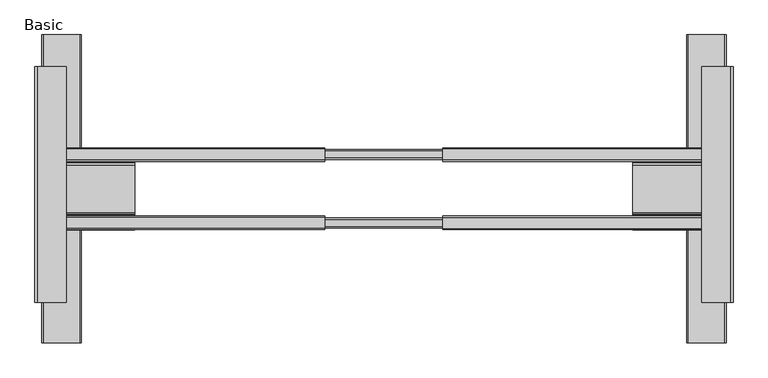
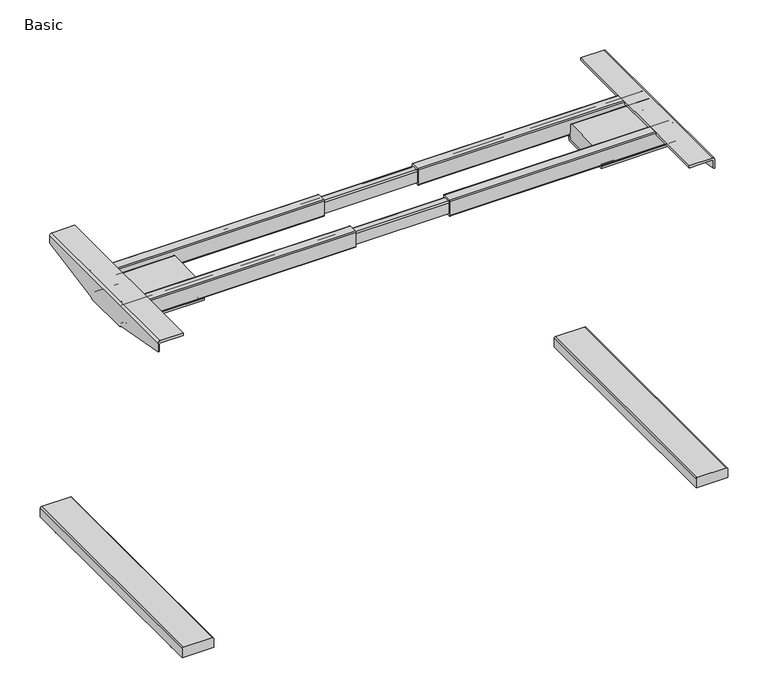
"""IFC4 building model written with IfcOpenShell, lengths in millimetres: furniture geometry, Steelcase Turnstone - Bivi - T Base : Basic."""

from ifc_helpers import new_model, si_unit, point, frame, frame_2d, origin, place, context, project, spatial, polyline, circle_curve, ellipse_curve, trimmed, segment, composite_curve, outline, extrude, source, transform, mapped, element, save
from ifc_brep_helpers import plane_surface, cylinder_surface, revolved_surface, advanced_brep


def basic_1c79728b(model_context):
    return source(origin(), model_context, "Body", "SolidModel", [
        advanced_brep(
        [(439.9197971, 171.9471628, 0.0), (439.9197971, 111.031484, 0.0), (439.9197971, 141.4893234, 0.0), (439.9197971, 173.9813657, 2.034203), (439.9197971, 108.997281, 2.034203), (439.9197971, 173.9813657, 5.0424709), (439.9197971, 108.997281, 5.0424709), (439.9197971, 171.9620755, 7.0617612), (439.9197971, 111.0165712, 7.0617612), (439.9197971, 149.0390808, 9.288914), (439.9197971, 133.9395659, 9.288914), (439.9197971, 141.4893234, 9.288914)],
        [
            (0, 1, circle_curve(frame((439.9197971, 141.4893234, 0.0), z_axis=(0.0, 0.0, -1.0), x_axis=(0.0, -1.0, 0.0)), 30.4578394)),
            (1, 2),
            (2, 0),
            (1, 0, circle_curve(frame((439.9197971, 141.4893234, 0.0), z_axis=(0.0, 0.0, -1.0), x_axis=(0.0, -1.0, 0.0)), 30.4578394)),
            (3, 4, circle_curve(frame((439.9197971, 141.4893234, 2.034203), z_axis=(0.0, 0.0, -1.0), x_axis=(0.0, -1.0, 0.0)), 32.4920424)),
            (4, 1, circle_curve(frame((439.9197971, 111.031484, 2.034203), z_axis=(1.0, 0.0, 0.0), x_axis=(0.0, 1.0, 0.0)), 2.034203)),
            (0, 3, circle_curve(frame((439.9197971, 171.9471628, 2.034203), z_axis=(1.0, 0.0, 0.0), x_axis=(0.0, -1.0, 0.0)), 2.034203)),
            (4, 3, circle_curve(frame((439.9197971, 141.4893234, 2.034203), z_axis=(0.0, 0.0, -1.0), x_axis=(0.0, -1.0, 0.0)), 32.4920424)),
            (5, 6, circle_curve(frame((439.9197971, 141.4893234, 5.0424709), z_axis=(0.0, 0.0, -1.0), x_axis=(0.0, -1.0, 0.0)), 32.4920424)),
            (6, 4),
            (3, 5),
            (6, 5, circle_curve(frame((439.9197971, 141.4893234, 5.0424709), z_axis=(0.0, 0.0, -1.0), x_axis=(0.0, -1.0, 0.0)), 32.4920424)),
            (7, 8, circle_curve(frame((439.9197971, 141.4893234, 7.0617612), z_axis=(0.0, 0.0, -1.0), x_axis=(0.0, -1.0, 0.0)), 30.4727521)),
            (8, 6, circle_curve(frame((439.9197971, 111.0165712, 5.0424709), z_axis=(1.0, 0.0, 0.0), x_axis=(0.0, 1.0, 0.0)), 2.0192902)),
            (5, 7, circle_curve(frame((439.9197971, 171.9620755, 5.0424709), z_axis=(1.0, 0.0, 0.0), x_axis=(0.0, -1.0, 0.0)), 2.0192902)),
            (8, 7, circle_curve(frame((439.9197971, 141.4893234, 7.0617612), z_axis=(0.0, 0.0, -1.0), x_axis=(0.0, -1.0, 0.0)), 30.4727521)),
            (9, 10, circle_curve(frame((439.9197971, 141.4893234, 9.288914), z_axis=(0.0, 0.0, -1.0), x_axis=(0.0, -1.0, 0.0)), 7.5497574)),
            (10, 8),
            (7, 9),
            (10, 9, circle_curve(frame((439.9197971, 141.4893234, 9.288914), z_axis=(0.0, 0.0, -1.0), x_axis=(0.0, -1.0, 0.0)), 7.5497574)),
            (11, 10),
            (9, 11),
        ],
        [
            plane_surface(frame((439.9197971, 141.4893234, 0.0), z_axis=(0.0, 0.0, -1.0), x_axis=(0.0, -1.0, 0.0))),
            revolved_surface(trimmed(ellipse_curve(frame((439.9197971, 111.031484, 2.034203), z_axis=(-1.0, 0.0, 0.0), x_axis=(0.0, 1.0, 0.0)), 2.034203, 2.034203), [point((439.9197971, 111.031484, 0.0))], [point((439.9197971, 108.997281, 2.034203))], True, "CARTESIAN"), (439.9197971, 141.4893234, 13.4607192), (0.0, 0.0, 1.0)),
            cylinder_surface(frame((439.9197971, 141.4893234, 13.4607192), z_axis=(0.0, 0.0, 1.0), x_axis=(0.0, -1.0, 0.0)), 32.4920424),
            revolved_surface(trimmed(ellipse_curve(frame((439.9197971, 111.0165712, 5.0424709), z_axis=(-1.0, 0.0, 0.0), x_axis=(0.0, 1.0, 0.0)), 2.0192902, 2.0192902), [point((439.9197971, 108.997281, 5.0424709))], [point((439.9197971, 111.0165712, 7.0617612))], True, "CARTESIAN"), (439.9197971, 141.4893234, 13.4607192), (0.0, 0.0, 1.0)),
            revolved_surface(polyline([(439.9197971, 111.0165712, 7.0617612), (439.9197971, 133.9395659, 9.288914)]), (439.9197971, 141.4893234, 13.4607192), (0.0, 0.0, 1.0)),
            plane_surface(frame((439.9197971, 141.4893234, 9.288914), z_axis=(0.0, 0.0, 1.0), x_axis=(0.0, -1.0, 0.0))),
        ],
        [
            (0, [[1, 2, 3]]),
            (0, [[4, -3, -2]]),
            (1, [[5, 6, -1, 7]]),
            (1, [[8, -7, -4, -6]]),
            (2, [[9, 10, -5, 11]]),
            (2, [[12, -11, -8, -10]]),
            (3, [[13, 14, -9, 15]]),
            (3, [[16, -15, -12, -14]]),
            (4, [[17, 18, -13, 19]]),
            (4, [[20, -19, -16, -18]]),
            (5, [[21, -17, 22]]),
            (5, [[-22, -20, -21]]),
        ],
    ),
        advanced_brep(
        [(-784.3602029, -367.0453334, 0.0), (-784.3602029, -306.1296546, 0.0), (-784.3602029, -336.587494, 0.0), (-784.3602029, -369.0795363, 2.034203), (-784.3602029, -304.0954516, 2.034203), (-784.3602029, -369.0795363, 5.0424709), (-784.3602029, -304.0954516, 5.0424709), (-784.3602029, -367.0602461, 7.0617612), (-784.3602029, -306.1147418, 7.0617612), (-784.3602029, -344.1372514, 9.288914), (-784.3602029, -329.0377365, 9.288914), (-784.3602029, -336.587494, 9.288914)],
        [
            (0, 1, circle_curve(frame((-784.3602029, -336.587494, 0.0), z_axis=(0.0, 0.0, -1.0), x_axis=(0.0, 1.0, 0.0)), 30.4578394)),
            (1, 2),
            (2, 0),
            (1, 0, circle_curve(frame((-784.3602029, -336.587494, 0.0), z_axis=(0.0, 0.0, -1.0), x_axis=(0.0, 1.0, 0.0)), 30.4578394)),
            (3, 4, circle_curve(frame((-784.3602029, -336.587494, 2.034203), z_axis=(0.0, 0.0, -1.0), x_axis=(0.0, 1.0, 0.0)), 32.4920424)),
            (4, 1, circle_curve(frame((-784.3602029, -306.1296546, 2.034203), z_axis=(-1.0, 0.0, 0.0), x_axis=(0.0, 1.0, 0.0)), 2.034203)),
            (0, 3, circle_curve(frame((-784.3602029, -367.0453334, 2.034203), z_axis=(-1.0, 0.0, 0.0), x_axis=(0.0, -1.0, 0.0)), 2.034203)),
            (4, 3, circle_curve(frame((-784.3602029, -336.587494, 2.034203), z_axis=(0.0, 0.0, -1.0), x_axis=(0.0, 1.0, 0.0)), 32.4920424)),
            (5, 6, circle_curve(frame((-784.3602029, -336.587494, 5.0424709), z_axis=(0.0, 0.0, -1.0), x_axis=(0.0, 1.0, 0.0)), 32.4920424)),
            (6, 4),
            (3, 5),
            (6, 5, circle_curve(frame((-784.3602029, -336.587494, 5.0424709), z_axis=(0.0, 0.0, -1.0), x_axis=(0.0, 1.0, 0.0)), 32.4920424)),
            (7, 8, circle_curve(frame((-784.3602029, -336.587494, 7.0617612), z_axis=(0.0, 0.0, -1.0), x_axis=(0.0, 1.0, 0.0)), 30.4727521)),
            (8, 6, circle_curve(frame((-784.3602029, -306.1147418, 5.0424709), z_axis=(-1.0, 0.0, 0.0), x_axis=(0.0, 1.0, 0.0)), 2.0192902)),
            (5, 7, circle_curve(frame((-784.3602029, -367.0602461, 5.0424709), z_axis=(-1.0, 0.0, 0.0), x_axis=(0.0, -1.0, 0.0)), 2.0192902)),
            (8, 7, circle_curve(frame((-784.3602029, -336.587494, 7.0617612), z_axis=(0.0, 0.0, -1.0), x_axis=(0.0, 1.0, 0.0)), 30.4727521)),
            (9, 10, circle_curve(frame((-784.3602029, -336.587494, 9.288914), z_axis=(0.0, 0.0, -1.0), x_axis=(0.0, 1.0, 0.0)), 7.5497574)),
            (10, 8),
            (7, 9),
            (10, 9, circle_curve(frame((-784.3602029, -336.587494, 9.288914), z_axis=(0.0, 0.0, -1.0), x_axis=(0.0, 1.0, 0.0)), 7.5497574)),
            (11, 10),
            (9, 11),
        ],
        [
            plane_surface(frame((-784.3602029, -336.587494, 0.0), z_axis=(0.0, 0.0, -1.0), x_axis=(0.0, 1.0, 0.0))),
            revolved_surface(trimmed(ellipse_curve(frame((-784.3602029, -306.1296546, 2.034203), z_axis=(1.0, 0.0, 0.0), x_axis=(0.0, 1.0, 0.0)), 2.034203, 2.034203), [point((-784.3602029, -306.1296546, 0.0))], [point((-784.3602029, -304.0954516, 2.034203))], True, "CARTESIAN"), (-784.3602029, -336.587494, 13.4607192), (0.0, 0.0, 1.0)),
            cylinder_surface(frame((-784.3602029, -336.587494, 13.4607192), z_axis=(0.0, 0.0, 1.0), x_axis=(0.0, 1.0, 0.0)), 32.4920424),
            revolved_surface(trimmed(ellipse_curve(frame((-784.3602029, -306.1147418, 5.0424709), z_axis=(1.0, 0.0, 0.0), x_axis=(0.0, 1.0, 0.0)), 2.0192902, 2.0192902), [point((-784.3602029, -304.0954516, 5.0424709))], [point((-784.3602029, -306.1147418, 7.0617612))], True, "CARTESIAN"), (-784.3602029, -336.587494, 13.4607192), (0.0, 0.0, 1.0)),
            revolved_surface(polyline([(-784.3602029, -306.1147418, 7.0617612), (-784.3602029, -329.0377365, 9.288914)]), (-784.3602029, -336.587494, 13.4607192), (0.0, 0.0, 1.0)),
            plane_surface(frame((-784.3602029, -336.587494, 9.288914), z_axis=(0.0, 0.0, 1.0), x_axis=(0.0, 1.0, 0.0))),
        ],
        [
            (0, [[1, 2, 3]]),
            (0, [[4, -3, -2]]),
            (1, [[5, 6, -1, 7]]),
            (1, [[8, -7, -4, -6]]),
            (2, [[9, 10, -5, 11]]),
            (2, [[12, -11, -8, -10]]),
            (3, [[13, 14, -9, 15]]),
            (3, [[16, -15, -12, -14]]),
            (4, [[17, 18, -13, 19]]),
            (4, [[20, -19, -16, -18]]),
            (5, [[21, -17, 22]]),
            (5, [[-22, -20, -21]]),
        ],
    ),
        advanced_brep(
        [(487.1774973, -158.2325705, 706.7459466), (489.6911807, -158.2325705, 706.7459466), (489.6911807, -313.1690409, 735.4690634), (487.1774973, -313.1690409, 735.4690634), (487.1774973, -154.5901123, 703.1034885), (489.6911807, -154.5901123, 703.1034885), (487.1774973, -37.2242924, 706.7459466), (489.6911807, -37.2242924, 706.7459466), (489.6911807, -40.8667505, 703.1034885), (487.1774973, -40.8667505, 703.1034885), (487.1774973, 133.8680014, 738.4641336), (489.6911807, 133.8680014, 738.4641336), (489.6911807, -313.1690409, 757.1424174), (484.4335981, -313.1690409, 762.4), (430.0244146, -313.1690409, 762.4), (430.0244146, -313.1690409, 756.3136941), (484.4335981, -313.1690409, 756.3136941), (487.1774973, -313.1690409, 753.5697948), (487.1774973, 133.8680014, 753.5697948), (484.4335981, 133.8680014, 756.3136941), (430.0244146, 133.8680014, 756.3136941), (430.0244146, 133.8680014, 762.4), (484.4335981, 133.8680014, 762.4), (489.6911807, 133.8680014, 757.1424174)],
        [
            (0, 1),
            (1, 2),
            (2, 3),
            (3, 0),
            (0, 4),
            (4, 5),
            (5, 1),
            (6, 7),
            (7, 8),
            (8, 9),
            (9, 6),
            (6, 10),
            (10, 11),
            (11, 7),
            (12, 13, circle_curve(frame((484.4335981, -313.1690409, 757.1424174), z_axis=(0.0, -1.0, 0.0), x_axis=(-1.0, 0.0, 0.0)), 5.2575826)),
            (13, 14),
            (14, 15),
            (15, 16),
            (16, 17, circle_curve(frame((484.4335981, -313.1690409, 753.5697948), z_axis=(0.0, 1.0, 0.0), x_axis=(-1.0, 0.0, 0.0)), 2.7438992)),
            (17, 3),
            (2, 12),
            (18, 19, circle_curve(frame((484.4335981, 133.8680014, 753.5697948), z_axis=(0.0, -1.0, 0.0), x_axis=(-1.0, 0.0, 0.0)), 2.7438992)),
            (19, 20),
            (20, 21),
            (21, 22),
            (22, 23, circle_curve(frame((484.4335981, 133.8680014, 757.1424174), z_axis=(0.0, 1.0, 0.0), x_axis=(-1.0, 0.0, 0.0)), 5.2575826)),
            (23, 11),
            (10, 18),
            (17, 18),
            (9, 4),
            (16, 19),
            (15, 20),
            (14, 21),
            (13, 22),
            (12, 23),
            (5, 8),
        ],
        [
            plane_surface(frame((907.5476074, -158.2325705, 706.7459466), z_axis=(0.0, -0.18228055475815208, -0.983246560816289), x_axis=(-1.0, 0.0, 0.0))),
            plane_surface(frame((907.5476074, -152.8866238, 701.4), z_axis=(0.0, -0.7071067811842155, -0.7071067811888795), x_axis=(-1.0, 0.0, 0.0))),
            plane_surface(frame((907.5476074, -37.2242924, 706.7459466), z_axis=(0.0, 0.707106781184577, -0.7071067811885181), x_axis=(-1.0, 0.0, 0.0))),
            plane_surface(frame((907.5476074, 190.3320215, 748.9317958), z_axis=(0.0, 0.18228055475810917, -0.983246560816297), x_axis=(-1.0, 0.0, 0.0))),
            plane_surface(frame((489.6911807, -313.1690409, 703.1034885), z_axis=(0.0, -1.0, 0.0), x_axis=(1.0, 0.0, 0.0))),
            plane_surface(frame((489.6911807, 133.8680014, 703.1034885), z_axis=(0.0, 1.0, 0.0), x_axis=(-1.0, 0.0, 0.0))),
            plane_surface(frame((487.1774973, -313.1690409, 753.5697948), z_axis=(-1.0, 0.0, 0.0), x_axis=(0.0, 1.0, 0.0))),
            revolved_surface(polyline([(481.6896989, 133.8680014, 753.5697948), (481.6896989, -313.1690409, 753.5697948)]), (484.4335981, 133.8680014, 753.5697948), (0.0, 1.0, 0.0)),
            plane_surface(frame((430.0244146, -313.1690409, 756.3136941), z_axis=(1.363306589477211e-12, 0.0, -1.0), x_axis=(0.0, 1.0, 0.0))),
            plane_surface(frame((430.0244146, -313.1690409, 762.4), z_axis=(-1.0, 0.0, 0.0), x_axis=(0.0, 1.0, 0.0))),
            plane_surface(frame((484.4335981, -313.1690409, 762.4), z_axis=(0.0, 0.0, 1.0), x_axis=(0.0, 1.0, 0.0))),
            cylinder_surface(frame((484.4335981, 133.8680014, 757.1424174), z_axis=(0.0, -1.0, 0.0), x_axis=(-1.0, 0.0, 0.0)), 5.2575826),
            plane_surface(frame((489.6911807, -313.1690409, 703.1034885), z_axis=(1.0, 0.0, 0.0), x_axis=(0.0, 1.0, 0.0))),
            plane_surface(frame((487.1774973, -313.1690409, 703.1034885), z_axis=(0.0, 0.0, -1.0), x_axis=(0.0, 1.0, 0.0))),
        ],
        [
            (0, [[1, 2, 3, 4]]),
            (1, [[-1, 5, 6, 7]]),
            (2, [[8, 9, 10, 11]]),
            (3, [[-8, 12, 13, 14]]),
            (4, [[15, 16, 17, 18, 19, 20, -3, 21]]),
            (5, [[22, 23, 24, 25, 26, 27, -13, 28]]),
            (6, [[29, -28, -12, -11, 30, -5, -4, -20]]),
            (7, [[-19, 31, -22, -29]]),
            (8, [[-18, 32, -23, -31]]),
            (9, [[-17, 33, -24, -32]]),
            (10, [[-16, 34, -25, -33]]),
            (11, [[-15, 35, -26, -34]]),
            (12, [[-35, -21, -2, -7, 36, -9, -14, -27]]),
            (13, [[-36, -6, -30, -10]]),
        ],
    ),
        advanced_brep(
        [(-831.5731206, -313.1690409, 753.5697948), (-828.8292213, -313.1690409, 756.3136941), (-774.1919689, -313.1690409, 756.3136941), (-774.1919689, -313.1690409, 762.4), (-828.6145206, -313.1690409, 762.4), (-833.8721032, -313.1690409, 757.1424174), (-833.8721032, -313.1690409, 735.4690634), (-831.5731206, -313.1690409, 735.4690634), (-833.8721032, 133.8680014, 757.1424174), (-828.6145206, 133.8680014, 762.4), (-774.1919689, 133.8680014, 762.4), (-774.1919689, 133.8680014, 756.3136941), (-828.8292213, 133.8680014, 756.3136941), (-831.5731206, 133.8680014, 753.5697948), (-831.5731206, 133.8680014, 738.4641336), (-833.8721032, 133.8680014, 738.4641336), (-831.5731206, -158.2325705, 706.7459466), (-831.5731206, -154.5901123, 703.1034885), (-831.5731206, -40.8667505, 703.1034885), (-831.5731206, -37.2242924, 706.7459466), (-833.8721032, -37.2242924, 706.7459466), (-833.8721032, -40.8667505, 703.1034885), (-833.8721032, -154.5901123, 703.1034885), (-833.8721032, -158.2325705, 706.7459466)],
        [
            (0, 1, circle_curve(frame((-828.8292213, -313.1690409, 753.5697948), z_axis=(0.0, 1.0, 0.0), x_axis=(1.0, 0.0, 0.0)), 2.7438992)),
            (1, 2),
            (2, 3),
            (3, 4),
            (4, 5, circle_curve(frame((-828.6145206, -313.1690409, 757.1424174), z_axis=(0.0, -1.0, 0.0), x_axis=(1.0, 0.0, 0.0)), 5.2575826)),
            (5, 6),
            (6, 7),
            (7, 0),
            (8, 9, circle_curve(frame((-828.6145206, 133.8680014, 757.1424174), z_axis=(0.0, 1.0, 0.0), x_axis=(1.0, 0.0, 0.0)), 5.2575826)),
            (9, 10),
            (10, 11),
            (11, 12),
            (12, 13, circle_curve(frame((-828.8292213, 133.8680014, 753.5697948), z_axis=(0.0, -1.0, 0.0), x_axis=(1.0, 0.0, 0.0)), 2.7438992)),
            (13, 14),
            (14, 15),
            (15, 8),
            (13, 0),
            (7, 16),
            (16, 17),
            (17, 18),
            (18, 19),
            (19, 14),
            (12, 1),
            (11, 2),
            (10, 3),
            (9, 4),
            (8, 5),
            (15, 20),
            (20, 21),
            (21, 22),
            (22, 23),
            (23, 6),
            (17, 22),
            (21, 18),
            (23, 16),
            (20, 19),
        ],
        [
            plane_surface(frame((-831.5731206, -313.1690409, 753.5697948), z_axis=(0.0, -1.0, 0.0), x_axis=(0.0, 0.0, 1.0))),
            plane_surface(frame((-831.5731206, 133.8680014, 753.5697948), z_axis=(0.0, 1.0, 0.0), x_axis=(0.0, 0.0, -1.0))),
            plane_surface(frame((-831.5731206, -313.1690409, 703.1034885), z_axis=(1.0, 0.0, 0.0), x_axis=(0.0, 1.0, 0.0))),
            revolved_surface(polyline([(-826.0853221, 133.8680014, 753.5697948), (-826.0853221, -313.1690409, 753.5697948)]), (-828.8292213, 133.8680014, 753.5697948), (0.0, 1.0, 0.0)),
            plane_surface(frame((-828.8292213, -313.1690409, 756.3136941), z_axis=(0.0, 0.0, -1.0), x_axis=(0.0, 1.0, 0.0))),
            plane_surface(frame((-774.1919689, -313.1690409, 756.3136941), z_axis=(1.0, 0.0, 0.0), x_axis=(0.0, 1.0, 0.0))),
            plane_surface(frame((-774.1919689, -313.1690409, 762.4), z_axis=(0.0, 0.0, 1.0), x_axis=(0.0, 1.0, 0.0))),
            cylinder_surface(frame((-828.6145206, 133.8680014, 757.1424174), z_axis=(0.0, -1.0, 0.0), x_axis=(1.0, 0.0, 0.0)), 5.2575826),
            plane_surface(frame((-833.8721032, -313.1690409, 757.1424174), z_axis=(-1.0, 0.0, 0.0), x_axis=(0.0, 1.0, 0.0))),
            plane_surface(frame((-833.8721032, -313.1690409, 703.1034885), z_axis=(0.0, 0.0, -1.0), x_axis=(0.0, 1.0, 0.0))),
            plane_surface(frame((-919.995801, -385.7888843, 748.9317958), z_axis=(0.0, -0.1822805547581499, -0.9832465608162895), x_axis=(1.0, 0.0, 0.0))),
            plane_surface(frame((-919.995801, -158.2325705, 706.7459466), z_axis=(0.0, -0.7071067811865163, -0.7071067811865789), x_axis=(1.0, 0.0, 0.0))),
            plane_surface(frame((-919.995801, -42.570239, 701.4), z_axis=(0.0, 0.7071067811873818, -0.7071067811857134), x_axis=(1.0, 0.0, 0.0))),
            plane_surface(frame((-919.995801, -37.2242924, 706.7459466), z_axis=(0.0, 0.1822805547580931, -0.9832465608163), x_axis=(1.0, 0.0, 0.0))),
        ],
        [
            (0, [[1, 2, 3, 4, 5, 6, 7, 8]]),
            (1, [[9, 10, 11, 12, 13, 14, 15, 16]]),
            (2, [[17, -8, 18, 19, 20, 21, 22, -14]]),
            (3, [[-1, -17, -13, 23]]),
            (4, [[-2, -23, -12, 24]]),
            (5, [[-3, -24, -11, 25]]),
            (6, [[-4, -25, -10, 26]]),
            (7, [[-5, -26, -9, 27]]),
            (8, [[-27, -16, 28, 29, 30, 31, 32, -6]]),
            (9, [[-20, 33, -30, 34]]),
            (10, [[35, -18, -7, -32]]),
            (11, [[-35, -31, -33, -19]]),
            (12, [[36, -21, -34, -29]]),
            (13, [[-36, -28, -15, -22]]),
        ],
    ),
        extrude(outline(composite_curve([segment(polyline([(7.9650038, 401.5137802), (7.9650038, 476.5881849), (30.0204767, 476.5881849)]), True, "CONTINUOUS"), segment(trimmed(circle_curve(frame_2d((30.0204767, 473.6075777)), 2.9806072), [point((30.0204767, 476.5881849))], [point((33.0010839, 473.6075777))], False, "CARTESIAN"), True, "CONTINUOUS"), segment(polyline([(33.0010839, 473.6075777), (33.0010839, 404.6842027)]), True, "CONTINUOUS"), segment(trimmed(circle_curve(frame_2d((29.8306613, 404.6842027)), 3.1704226), [point((33.0010839, 404.6842027))], [point((29.8306613, 401.5137802))], False, "CARTESIAN"), True, "CONTINUOUS"), segment(polyline([(29.8306613, 401.5137802), (7.9650038, 401.5137802)]), True, "CONTINUOUS")], self_intersect=False)), frame((0.0, -389.6490853, 0.0), z_axis=(0.0, 1.0, 0.0), x_axis=(0.0, 0.0, 1.0)), (0.0, 0.0, 1.0), 584.2),
        extrude(outline(composite_curve([segment(polyline([(7.9650038, -745.954186), (29.8306613, -745.954186)]), True, "CONTINUOUS"), segment(trimmed(circle_curve(frame_2d((29.8306613, -749.1246086)), 3.1704226), [point((29.8306613, -745.954186))], [point((33.0010839, -749.1246086))], False, "CARTESIAN"), True, "CONTINUOUS"), segment(polyline([(33.0010839, -749.1246086), (33.0010839, -818.0479836)]), True, "CONTINUOUS"), segment(trimmed(circle_curve(frame_2d((30.0204767, -818.0479836)), 2.9806072), [point((33.0010839, -818.0479836))], [point((30.0204767, -821.0285908))], False, "CARTESIAN"), True, "CONTINUOUS"), segment(polyline([(30.0204767, -821.0285908), (7.9650038, -821.0285908), (7.9650038, -745.954186)]), True, "CONTINUOUS")], self_intersect=False)), frame((0.0, -389.6490853, 0.0), z_axis=(0.0, 1.0, 0.0), x_axis=(0.0, 0.0, 1.0)), (0.0, 0.0, 1.0), 584.2),
        extrude(outline(composite_curve([segment(trimmed(circle_curve(frame_2d((-22.6846088, 724.4247064)), 2.54), [point((-20.1446088, 724.4247064))], [point((-22.6846088, 721.8847064))], False, "CARTESIAN"), True, "CONTINUOUS"), segment(polyline([(-22.6846088, 721.8847064), (-43.0735084, 721.8847064)]), True, "CONTINUOUS"), segment(trimmed(circle_curve(frame_2d((-43.0735084, 724.3558068)), 2.4711004), [point((-43.0735084, 721.8847064))], [point((-45.5446088, 724.3558068))], False, "CARTESIAN"), True, "CONTINUOUS"), segment(polyline([(-45.5446088, 724.3558068), (-45.5446088, 759.897389)]), True, "CONTINUOUS"), segment(trimmed(circle_curve(frame_2d((-43.0419978, 759.897389)), 2.502611), [point((-45.5446088, 759.897389))], [point((-43.0419978, 762.4))], False, "CARTESIAN"), True, "CONTINUOUS"), segment(polyline([(-43.0419978, 762.4), (-22.5036523, 762.4)]), True, "CONTINUOUS"), segment(trimmed(circle_curve(frame_2d((-22.5036523, 760.0409564)), 2.3590436), [point((-22.5036523, 762.4))], [point((-20.1446088, 760.0409564))], False, "CARTESIAN"), True, "CONTINUOUS"), segment(polyline([(-20.1446088, 760.0409564), (-20.1446088, 724.4247064)]), True, "CONTINUOUS")], self_intersect=False)), frame((-60.4602029, 0.0, 0.0), z_axis=(1.0, 0.0, 0.0), x_axis=(0.0, 1.0, 0.0)), (0.0, 0.0, 1.0), 537.0483879),
        extrude(outline(composite_curve([segment(polyline([(-175.0303912, 724.4247064), (-175.0303912, 760.0409564)]), True, "CONTINUOUS"), segment(trimmed(circle_curve(frame_2d((-172.6713476, 760.0409564)), 2.3590436), [point((-175.0303912, 760.0409564))], [point((-172.6713476, 762.4))], False, "CARTESIAN"), True, "CONTINUOUS"), segment(polyline([(-172.6713476, 762.4), (-152.1330021, 762.4)]), True, "CONTINUOUS"), segment(trimmed(circle_curve(frame_2d((-152.1330021, 759.897389)), 2.502611), [point((-152.1330021, 762.4))], [point((-149.6303912, 759.897389))], False, "CARTESIAN"), True, "CONTINUOUS"), segment(polyline([(-149.6303912, 759.897389), (-149.6303912, 724.3558068)]), True, "CONTINUOUS"), segment(trimmed(circle_curve(frame_2d((-152.1014916, 724.3558068)), 2.4711004), [point((-149.6303912, 724.3558068))], [point((-152.1014916, 721.8847064))], False, "CARTESIAN"), True, "CONTINUOUS"), segment(polyline([(-152.1014916, 721.8847064), (-172.4903912, 721.8847064)]), True, "CONTINUOUS"), segment(trimmed(circle_curve(frame_2d((-172.4903912, 724.4247064)), 2.54), [point((-172.4903912, 721.8847064))], [point((-175.0303912, 724.4247064))], False, "CARTESIAN"), True, "CONTINUOUS")], self_intersect=False)), frame((-60.4602029, 0.0, 0.0), z_axis=(1.0, 0.0, 0.0), x_axis=(0.0, 1.0, 0.0)), (0.0, 0.0, 1.0), 537.0483879),
        extrude(outline(composite_curve([segment(polyline([(-41.1510404, 716.7696117), (-42.2051171, 711.022656)]), True, "CONTINUOUS"), segment(trimmed(circle_curve(frame_2d((-47.3092607, 711.9588315)), 5.1892877), [point((-42.2051171, 711.022656))], [point((-47.3092607, 706.7695438))], False, "CARTESIAN"), True, "CONTINUOUS"), segment(polyline([(-47.3092607, 706.7695438), (-148.1476021, 706.7695438)]), True, "CONTINUOUS"), segment(trimmed(circle_curve(frame_2d((-148.1476021, 711.9588315)), 5.1892877), [point((-148.1476021, 706.7695438))], [point((-153.2517457, 711.022656))], False, "CARTESIAN"), True, "CONTINUOUS"), segment(polyline([(-153.2517457, 711.022656), (-154.3058224, 716.7696117), (-175.3056356, 716.7696117), (-175.3056356, 721.8847064), (-154.8075486, 721.8847064)]), True, "CONTINUOUS"), segment(trimmed(circle_curve(frame_2d((-154.8075486, 716.3079909)), 5.5767155), [point((-154.8075486, 721.8847064))], [point((-149.3222025, 717.3133434))], False, "CARTESIAN"), True, "CONTINUOUS"), segment(polyline([(-149.3222025, 717.3133434), (-148.3061517, 711.7696262), (-47.7075617, 711.7696262), (-46.6915109, 717.3133434)]), True, "CONTINUOUS"), segment(trimmed(circle_curve(frame_2d((-41.2061648, 716.3079909)), 5.5767155), [point((-46.6915109, 717.3133434))], [point((-41.2061648, 721.8847064))], False, "CARTESIAN"), True, "CONTINUOUS"), segment(polyline([(-41.2061648, 721.8847064), (-20.3067633, 721.8847064), (-20.3067633, 716.7696117), (-41.1510404, 716.7696117)]), True, "CONTINUOUS")], self_intersect=False)), frame((299.8031648, 0.0, 0.0), z_axis=(1.0, 0.0, 0.0), x_axis=(0.0, 1.0, 0.0)), (0.0, 0.0, 1.0), 184.6304333),
        extrude(outline(composite_curve([segment(polyline([(-49.146017, 750.0927128), (-47.8070711, 711.7696262), (-147.8056669, 711.7696262), (-146.4667677, 750.0927082)]), True, "CONTINUOUS"), segment(trimmed(circle_curve(frame_2d((-142.6590908, 749.9596788)), 3.81), [point((-146.4667677, 750.0927082))], [point((-142.6590908, 753.7696788))], False, "CARTESIAN"), True, "CONTINUOUS"), segment(polyline([(-142.6590908, 753.7696788), (-52.9536937, 753.7696788)]), True, "CONTINUOUS"), segment(trimmed(circle_curve(frame_2d((-52.9536937, 749.9596788)), 3.81), [point((-52.9536937, 753.7696788))], [point((-49.146017, 750.0927128))], False, "CARTESIAN"), True, "CONTINUOUS")], self_intersect=False)), frame((299.8031648, 0.0, 0.0), z_axis=(1.0, 0.0, 0.0), x_axis=(0.0, 1.0, 0.0)), (0.0, 0.0, 1.0), 184.6304333),
        extrude(outline(composite_curve([segment(polyline([(-49.146017, 750.0927128), (-47.8070711, 711.7696262), (-147.8056669, 711.7696262), (-146.4667677, 750.0927082)]), True, "CONTINUOUS"), segment(trimmed(circle_curve(frame_2d((-142.6590908, 749.9596788)), 3.81), [point((-146.4667677, 750.0927082))], [point((-142.6590908, 753.7696788))], False, "CARTESIAN"), True, "CONTINUOUS"), segment(polyline([(-142.6590908, 753.7696788), (-52.9536937, 753.7696788)]), True, "CONTINUOUS"), segment(trimmed(circle_curve(frame_2d((-52.9536937, 749.9596788)), 3.81), [point((-52.9536937, 753.7696788))], [point((-49.146017, 750.0927128))], False, "CARTESIAN"), True, "CONTINUOUS")], self_intersect=False)), frame((-828.874004, 0.0, 0.0), z_axis=(1.0, 0.0, 0.0), x_axis=(0.0, 1.0, 0.0)), (0.0, 0.0, 1.0), 184.6304333),
        extrude(outline(composite_curve([segment(trimmed(circle_curve(frame_2d((-22.6461941, 724.4247064)), 2.54), [point((-20.1061941, 724.4247064))], [point((-22.6461941, 721.8847064))], False, "CARTESIAN"), True, "CONTINUOUS"), segment(polyline([(-22.6461941, 721.8847064), (-43.0350937, 721.8847064)]), True, "CONTINUOUS"), segment(trimmed(circle_curve(frame_2d((-43.0350937, 724.3558068)), 2.4711004), [point((-43.0350937, 721.8847064))], [point((-45.5061941, 724.3558068))], False, "CARTESIAN"), True, "CONTINUOUS"), segment(polyline([(-45.5061941, 724.3558068), (-45.5061941, 759.897389)]), True, "CONTINUOUS"), segment(trimmed(circle_curve(frame_2d((-43.0035831, 759.897389)), 2.502611), [point((-45.5061941, 759.897389))], [point((-43.0035831, 762.4))], False, "CARTESIAN"), True, "CONTINUOUS"), segment(polyline([(-43.0035831, 762.4), (-22.4652377, 762.4)]), True, "CONTINUOUS"), segment(trimmed(circle_curve(frame_2d((-22.4652377, 760.0409564)), 2.3590436), [point((-22.4652377, 762.4))], [point((-20.1061941, 760.0409564))], False, "CARTESIAN"), True, "CONTINUOUS"), segment(polyline([(-20.1061941, 760.0409564), (-20.1061941, 724.4247064)]), True, "CONTINUOUS")], self_intersect=False)), frame((-828.874004, 0.0, 0.0), z_axis=(1.0, 0.0, 0.0), x_axis=(0.0, 1.0, 0.0)), (0.0, 0.0, 1.0), 544.893801),
        extrude(outline(composite_curve([segment(polyline([(-174.9919765, 724.4247064), (-174.9919765, 760.0409564)]), True, "CONTINUOUS"), segment(trimmed(circle_curve(frame_2d((-172.6329329, 760.0409564)), 2.3590436), [point((-174.9919765, 760.0409564))], [point((-172.6329329, 762.4))], False, "CARTESIAN"), True, "CONTINUOUS"), segment(polyline([(-172.6329329, 762.4), (-152.0945875, 762.4)]), True, "CONTINUOUS"), segment(trimmed(circle_curve(frame_2d((-152.0945875, 759.897389)), 2.502611), [point((-152.0945875, 762.4))], [point((-149.5919765, 759.897389))], False, "CARTESIAN"), True, "CONTINUOUS"), segment(polyline([(-149.5919765, 759.897389), (-149.5919765, 724.3558068)]), True, "CONTINUOUS"), segment(trimmed(circle_curve(frame_2d((-152.0630769, 724.3558068)), 2.4711004), [point((-149.5919765, 724.3558068))], [point((-152.0630769, 721.8847064))], False, "CARTESIAN"), True, "CONTINUOUS"), segment(polyline([(-152.0630769, 721.8847064), (-172.4519765, 721.8847064)]), True, "CONTINUOUS"), segment(trimmed(circle_curve(frame_2d((-172.4519765, 724.4247064)), 2.54), [point((-172.4519765, 721.8847064))], [point((-174.9919765, 724.4247064))], False, "CARTESIAN"), True, "CONTINUOUS")], self_intersect=False)), frame((-828.874004, 0.0, 0.0), z_axis=(1.0, 0.0, 0.0), x_axis=(0.0, 1.0, 0.0)), (0.0, 0.0, 1.0), 544.893801),
        extrude(outline(composite_curve([segment(polyline([(-25.1062849, 727.2695037), (-25.1062849, 755.3113189)]), True, "CONTINUOUS"), segment(trimmed(circle_curve(frame_2d((-25.6644682, 755.3113189)), 0.5581833), [point((-25.1062849, 755.3113189))], [point((-25.6644682, 755.8695022))], True, "CARTESIAN"), True, "CONTINUOUS"), segment(polyline([(-25.6644682, 755.8695022), (-39.9437245, 755.8695022)]), True, "CONTINUOUS"), segment(trimmed(circle_curve(frame_2d((-39.9437245, 755.3073353)), 0.5621669), [point((-39.9437245, 755.8695022))], [point((-40.5058914, 755.3073353))], True, "CARTESIAN"), True, "CONTINUOUS"), segment(polyline([(-40.5058914, 755.3073353), (-40.5058914, 727.2695037), (-42.5060407, 727.2695037), (-42.5060407, 754.6257358)]), True, "CONTINUOUS"), segment(trimmed(circle_curve(frame_2d((-39.2622994, 754.6257358)), 3.2437412), [point((-42.5060407, 754.6257358))], [point((-39.2622994, 757.869477))], False, "CARTESIAN"), True, "CONTINUOUS"), segment(polyline([(-39.2622994, 757.869477), (-26.0748444, 757.869477)]), True, "CONTINUOUS"), segment(trimmed(circle_curve(frame_2d((-26.0748444, 754.9010338)), 2.9684433), [point((-26.0748444, 757.869477))], [point((-23.1064012, 754.9010338))], False, "CARTESIAN"), True, "CONTINUOUS"), segment(polyline([(-23.1064012, 754.9010338), (-23.1064012, 727.2695037), (-25.1062849, 727.2695037)]), True, "CONTINUOUS")], self_intersect=False)), frame((-828.874004, 0.0, 0.0), z_axis=(1.0, 0.0, 0.0), x_axis=(0.0, 1.0, 0.0)), (0.0, 0.0, 1.0), 1313.3076021),
        extrude(outline(composite_curve([segment(polyline([(-169.9918857, 727.2695037), (-171.9917694, 727.2695037), (-171.9917694, 754.9010338)]), True, "CONTINUOUS"), segment(trimmed(circle_curve(frame_2d((-169.0233262, 754.9010338)), 2.9684433), [point((-171.9917694, 754.9010338))], [point((-169.0233262, 757.869477))], False, "CARTESIAN"), True, "CONTINUOUS"), segment(polyline([(-169.0233262, 757.869477), (-155.8358712, 757.869477)]), True, "CONTINUOUS"), segment(trimmed(circle_curve(frame_2d((-155.8358712, 754.6257358)), 3.2437412), [point((-155.8358712, 757.869477))], [point((-152.5921299, 754.6257358))], False, "CARTESIAN"), True, "CONTINUOUS"), segment(polyline([(-152.5921299, 754.6257358), (-152.5921299, 727.2695037), (-154.5922792, 727.2695037), (-154.5922792, 755.3073353)]), True, "CONTINUOUS"), segment(trimmed(circle_curve(frame_2d((-155.1544461, 755.3073353)), 0.5621669), [point((-154.5922792, 755.3073353))], [point((-155.1544461, 755.8695022))], True, "CARTESIAN"), True, "CONTINUOUS"), segment(polyline([(-155.1544461, 755.8695022), (-169.4337024, 755.8695022)]), True, "CONTINUOUS"), segment(trimmed(circle_curve(frame_2d((-169.4337024, 755.3113189)), 0.5581833), [point((-169.4337024, 755.8695022))], [point((-169.9918857, 755.3113189))], True, "CARTESIAN"), True, "CONTINUOUS"), segment(polyline([(-169.9918857, 755.3113189), (-169.9918857, 727.2695037)]), True, "CONTINUOUS")], self_intersect=False)), frame((-828.874004, 0.0, 0.0), z_axis=(1.0, 0.0, 0.0), x_axis=(0.0, 1.0, 0.0)), (0.0, 0.0, 1.0), 1313.3076021),
        advanced_brep(
        [(-784.3602029, 141.4893234, 0.0), (-784.3602029, 111.031484, 0.0), (-784.3602029, 171.9471628, 0.0), (-784.3602029, 108.997281, 2.034203), (-784.3602029, 173.9813657, 2.034203), (-784.3602029, 108.997281, 5.0424709), (-784.3602029, 173.9813657, 5.0424709), (-784.3602029, 111.0165712, 7.0617612), (-784.3602029, 171.9620755, 7.0617612), (-784.3602029, 133.9395659, 9.288914), (-784.3602029, 149.0390808, 9.288914), (-784.3602029, 141.4893234, 9.288914)],
        [
            (0, 1),
            (1, 2, circle_curve(frame((-784.3602029, 141.4893234, 0.0), z_axis=(0.0, 0.0, -1.0), x_axis=(0.0, -1.0, 0.0)), 30.4578394)),
            (2, 0),
            (2, 1, circle_curve(frame((-784.3602029, 141.4893234, 0.0), z_axis=(0.0, 0.0, -1.0), x_axis=(0.0, -1.0, 0.0)), 30.4578394)),
            (1, 3, circle_curve(frame((-784.3602029, 111.031484, 2.034203), z_axis=(-1.0, 0.0, 0.0), x_axis=(0.0, -1.0, 0.0)), 2.034203)),
            (3, 4, circle_curve(frame((-784.3602029, 141.4893234, 2.034203), z_axis=(0.0, 0.0, -1.0), x_axis=(0.0, -1.0, 0.0)), 32.4920424)),
            (4, 2, circle_curve(frame((-784.3602029, 171.9471628, 2.034203), z_axis=(-1.0, 0.0, 0.0), x_axis=(0.0, 1.0, 0.0)), 2.034203)),
            (4, 3, circle_curve(frame((-784.3602029, 141.4893234, 2.034203), z_axis=(0.0, 0.0, -1.0), x_axis=(0.0, -1.0, 0.0)), 32.4920424)),
            (3, 5),
            (5, 6, circle_curve(frame((-784.3602029, 141.4893234, 5.0424709), z_axis=(0.0, 0.0, -1.0), x_axis=(0.0, -1.0, 0.0)), 32.4920424)),
            (6, 4),
            (6, 5, circle_curve(frame((-784.3602029, 141.4893234, 5.0424709), z_axis=(0.0, 0.0, -1.0), x_axis=(0.0, -1.0, 0.0)), 32.4920424)),
            (5, 7, circle_curve(frame((-784.3602029, 111.0165712, 5.0424709), z_axis=(-1.0, 0.0, 0.0), x_axis=(0.0, -1.0, 0.0)), 2.0192902)),
            (7, 8, circle_curve(frame((-784.3602029, 141.4893234, 7.0617612), z_axis=(0.0, 0.0, -1.0), x_axis=(0.0, -1.0, 0.0)), 30.4727521)),
            (8, 6, circle_curve(frame((-784.3602029, 171.9620755, 5.0424709), z_axis=(-1.0, 0.0, 0.0), x_axis=(0.0, 1.0, 0.0)), 2.0192902)),
            (8, 7, circle_curve(frame((-784.3602029, 141.4893234, 7.0617612), z_axis=(0.0, 0.0, -1.0), x_axis=(0.0, -1.0, 0.0)), 30.4727521)),
            (7, 9),
            (9, 10, circle_curve(frame((-784.3602029, 141.4893234, 9.288914), z_axis=(0.0, 0.0, -1.0), x_axis=(0.0, -1.0, 0.0)), 7.5497574)),
            (10, 8),
            (10, 9, circle_curve(frame((-784.3602029, 141.4893234, 9.288914), z_axis=(0.0, 0.0, -1.0), x_axis=(0.0, -1.0, 0.0)), 7.5497574)),
            (9, 11),
            (11, 10),
        ],
        [
            plane_surface(frame((-784.3602029, 141.4893234, 0.0), z_axis=(0.0, 0.0, -1.0), x_axis=(0.0, -1.0, 0.0))),
            revolved_surface(trimmed(ellipse_curve(frame((-784.3602029, 111.031484, 2.034203), z_axis=(1.0, 0.0, 0.0), x_axis=(0.0, -1.0, 0.0)), 2.034203, 2.034203), [point((-784.3602029, 108.997281, 2.034203))], [point((-784.3602029, 111.031484, 0.0))], True, "CARTESIAN"), (-784.3602029, 141.4893234, 13.4607192), (0.0, 0.0, -1.0)),
            cylinder_surface(frame((-784.3602029, 141.4893234, 13.4607192), z_axis=(0.0, 0.0, -1.0), x_axis=(0.0, -1.0, 0.0)), 32.4920424),
            revolved_surface(trimmed(ellipse_curve(frame((-784.3602029, 111.0165712, 5.0424709), z_axis=(1.0, 0.0, 0.0), x_axis=(0.0, -1.0, 0.0)), 2.0192902, 2.0192902), [point((-784.3602029, 111.0165712, 7.0617612))], [point((-784.3602029, 108.997281, 5.0424709))], True, "CARTESIAN"), (-784.3602029, 141.4893234, 13.4607192), (0.0, 0.0, -1.0)),
            revolved_surface(polyline([(-784.3602029, 133.9395659, 9.288914), (-784.3602029, 111.0165712, 7.0617612)]), (-784.3602029, 141.4893234, 13.4607192), (0.0, 0.0, -1.0)),
            plane_surface(frame((-784.3602029, 141.4893234, 9.288914), z_axis=(0.0, 0.0, 1.0), x_axis=(0.0, -1.0, 0.0))),
        ],
        [
            (0, [[1, 2, 3]]),
            (0, [[-3, 4, -1]]),
            (1, [[-2, 5, 6, 7]]),
            (1, [[-4, -7, 8, -5]]),
            (2, [[-6, 9, 10, 11]]),
            (2, [[-8, -11, 12, -9]]),
            (3, [[-10, 13, 14, 15]]),
            (3, [[-12, -15, 16, -13]]),
            (4, [[-14, 17, 18, 19]]),
            (4, [[-16, -19, 20, -17]]),
            (5, [[-18, 21, 22]]),
            (5, [[-20, -22, -21]]),
        ],
    ),
        extrude(outline(composite_curve([segment(polyline([(-41.1510404, 716.7696117), (-42.2051171, 711.022656)]), True, "CONTINUOUS"), segment(trimmed(circle_curve(frame_2d((-47.3092607, 711.9588315)), 5.1892877), [point((-42.2051171, 711.022656))], [point((-47.3092607, 706.7695438))], False, "CARTESIAN"), True, "CONTINUOUS"), segment(polyline([(-47.3092607, 706.7695438), (-148.1476021, 706.7695438)]), True, "CONTINUOUS"), segment(trimmed(circle_curve(frame_2d((-148.1476021, 711.9588315)), 5.1892877), [point((-148.1476021, 706.7695438))], [point((-153.2517457, 711.022656))], False, "CARTESIAN"), True, "CONTINUOUS"), segment(polyline([(-153.2517457, 711.022656), (-154.3058224, 716.7696117), (-175.3056356, 716.7696117), (-175.3056356, 721.8847064), (-154.8075486, 721.8847064)]), True, "CONTINUOUS"), segment(trimmed(circle_curve(frame_2d((-154.8075486, 716.3079909)), 5.5767155), [point((-154.8075486, 721.8847064))], [point((-149.3222025, 717.3133434))], False, "CARTESIAN"), True, "CONTINUOUS"), segment(polyline([(-149.3222025, 717.3133434), (-148.3061517, 711.7696262), (-47.7075617, 711.7696262), (-46.6915109, 717.3133434)]), True, "CONTINUOUS"), segment(trimmed(circle_curve(frame_2d((-41.2061648, 716.3079909)), 5.5767155), [point((-46.6915109, 717.3133434))], [point((-41.2061648, 721.8847064))], False, "CARTESIAN"), True, "CONTINUOUS"), segment(polyline([(-41.2061648, 721.8847064), (-20.3067633, 721.8847064), (-20.3067633, 716.7696117), (-41.1510404, 716.7696117)]), True, "CONTINUOUS")], self_intersect=False)), frame((-828.874004, 0.0, 0.0), z_axis=(1.0, 0.0, 0.0), x_axis=(0.0, 1.0, 0.0)), (0.0, 0.0, 1.0), 184.6304333),
    ])


if __name__ == "__main__":
    model = new_model("IFC4")
    model_context = context("Model", 3, world=origin())
    ifc_project = project(units=[si_unit("LENGTHUNIT", "METRE", prefix="MILLI")], contexts=[model_context])
    site = spatial("IfcSite", under=ifc_project)
    building = spatial("IfcBuilding", under=site)
    placement = place(None, origin())
    basic_shape = basic_1c79728b(model_context)
    element("IfcFurniture", 1, ObjectType="Steelcase Turnstone - Bivi - T Base : Basic", at=placement, inside=building, context=model_context, shape_type="MappedRepresentation", body=[
        mapped(basic_shape, transform((0.0, 0.0, 0.0), x_axis=(1.0, 0.0, 0.0), y_axis=(0.0, 1.0, 0.0), z_axis=(0.0, 0.0, 1.0))),
    ])
    save(model, "model.ifc")
